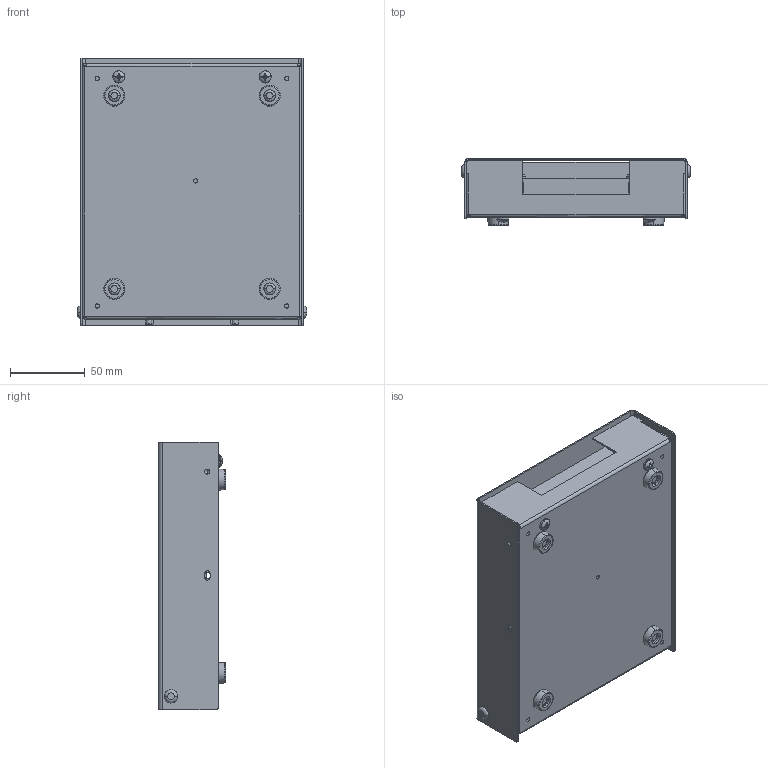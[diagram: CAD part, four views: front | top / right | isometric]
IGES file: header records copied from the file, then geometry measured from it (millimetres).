
Start section:  PTC IGES file: cd_sch-68.igs
Global section: file name: cd_sch-68.igs; native system: Pro/ENGINEER by Parametric Technology Corporation; preprocessor: 2006510; author: dkendric; organization: Unknown; date: 20100921.165018; units: inch
Bounding box: 153.57 x 44.96 x 179.59 mm (x, y, z)
Surface area: 215169.2 mm2 (no closed solid volume)
Topology: 0 solids, 0 shells, 862 faces, 4156 edges, 4016 vertices
Faces by surface type: bspline 518, revolution 344
